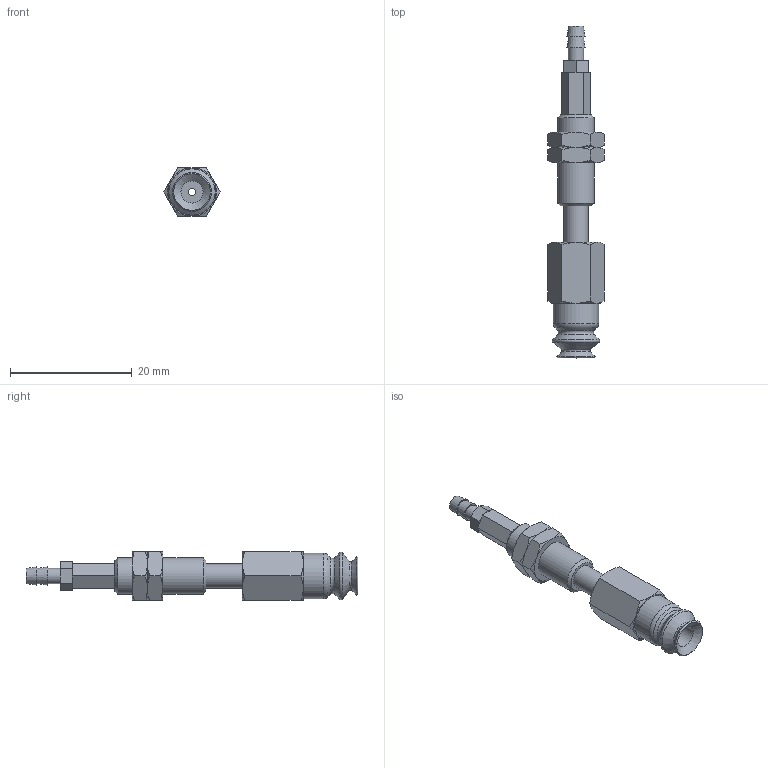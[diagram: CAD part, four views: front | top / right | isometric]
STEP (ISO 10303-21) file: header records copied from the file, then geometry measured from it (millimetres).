
FILE_DESCRIPTION(('STEP AP203'),'1');
FILE_NAME('-T.stp','2025-08-27T07:21:50',(' '),(' '),'Spatial InterOp 3D',' ',' ');
FILE_SCHEMA(('CONFIG_CONTROL_DESIGN'));
Length unit declared in the file: millimetre
Products named in the file (7): BNABPJTS-6-6-※-T; ADAPTER; NAPCTS-7-6-MBODY; NUT-NAPJ-6-6-s; NAPJTS-6-6-FBODY; BPJG-6-※; T (2)
Assembly tree (7 placements, depth 2):
  BNABPJTS-6-6-※-T
    ADAPTER
    NAPCTS-7-6-MBODY
    NUT-NAPJ-6-6-s  x2
    NAPJTS-6-6-FBODY
    BPJG-6-※
    T (2)
Bounding box: 9.24 x 54.6 x 8 mm (x, y, z)
Volume: 1581 mm3; surface area: 2423.3 mm2
Topology: 7 solids, 7 shells, 137 faces, 288 edges, 172 vertices
Faces by surface type: plane 57, cone 54, cylinder 17, torus 9
Full cylindrical faces by diameter (mm): 1.2 x3, 2.459 x1, 2.5 x1, 3 x1, 3.64 x1, 4 x4, 5.188 x2, 6 x3, 7.5 x1
Entity records: 3260 total; most frequent: CARTESIAN_POINT 710, DIRECTION 470, ORIENTED_EDGE 378, AXIS2_PLACEMENT_3D 208, EDGE_CURVE 189, EDGE_LOOP 173, FACE_OUTER_BOUND 139, VERTEX_POINT 134
